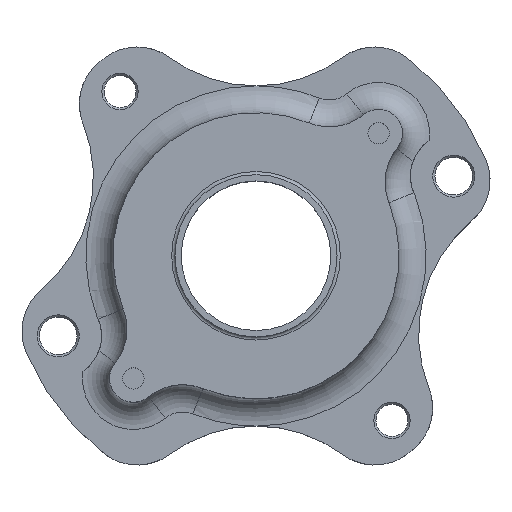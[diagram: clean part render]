
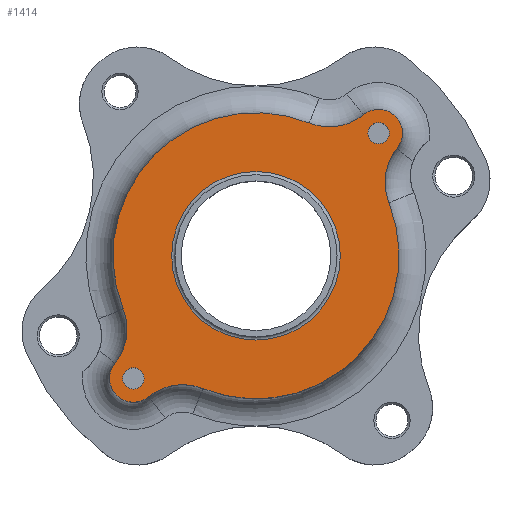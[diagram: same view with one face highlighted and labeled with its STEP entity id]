
A CAD part, top view. The second image highlights one B-rep face of the part: STEP entity #1414.
In plain terms, the highlighted planar face has unit normal (0, 0, 1).
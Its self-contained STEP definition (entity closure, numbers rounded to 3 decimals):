
#249=ORIENTED_EDGE('',*,*,#507,.F.);
#250=ORIENTED_EDGE('',*,*,#508,.T.);
#251=ORIENTED_EDGE('',*,*,#509,.T.);
#252=ORIENTED_EDGE('',*,*,#510,.T.);
#253=ORIENTED_EDGE('',*,*,#511,.T.);
#254=ORIENTED_EDGE('',*,*,#512,.T.);
#255=ORIENTED_EDGE('',*,*,#513,.T.);
#256=ORIENTED_EDGE('',*,*,#514,.T.);
#257=ORIENTED_EDGE('',*,*,#515,.T.);
#258=ORIENTED_EDGE('',*,*,#516,.T.);
#259=ORIENTED_EDGE('',*,*,#517,.T.);
#507=EDGE_CURVE('',#632,#632,#725,.T.);
#508=EDGE_CURVE('',#633,#633,#726,.T.);
#509=EDGE_CURVE('',#634,#634,#727,.T.);
#510=EDGE_CURVE('',#635,#636,#728,.T.);
#511=EDGE_CURVE('',#636,#637,#729,.T.);
#512=EDGE_CURVE('',#637,#638,#730,.T.);
#513=EDGE_CURVE('',#638,#639,#731,.T.);
#514=EDGE_CURVE('',#639,#640,#732,.T.);
#515=EDGE_CURVE('',#640,#641,#733,.T.);
#516=EDGE_CURVE('',#641,#642,#734,.T.);
#517=EDGE_CURVE('',#642,#635,#735,.T.);
#632=VERTEX_POINT('',#2161);
#633=VERTEX_POINT('',#2163);
#634=VERTEX_POINT('',#2165);
#635=VERTEX_POINT('',#2167);
#636=VERTEX_POINT('',#2168);
#637=VERTEX_POINT('',#2170);
#638=VERTEX_POINT('',#2172);
#639=VERTEX_POINT('',#2174);
#640=VERTEX_POINT('',#2176);
#641=VERTEX_POINT('',#2178);
#642=VERTEX_POINT('',#2180);
#725=CIRCLE('',#1538,19.755);
#726=CIRCLE('',#1539,2.488);
#727=CIRCLE('',#1540,2.488);
#728=CIRCLE('',#1541,12.7);
#729=CIRCLE('',#1542,5.588);
#730=CIRCLE('',#1543,12.7);
#731=CIRCLE('',#1544,33.528);
#732=CIRCLE('',#1545,12.7);
#733=CIRCLE('',#1546,5.588);
#734=CIRCLE('',#1547,12.7);
#735=CIRCLE('',#1548,33.528);
#795=EDGE_LOOP('',(#249));
#796=EDGE_LOOP('',(#250));
#797=EDGE_LOOP('',(#251));
#798=EDGE_LOOP('',(#252,#253,#254,#255,#256,#257,#258,#259));
#883=FACE_BOUND('',#795,.T.);
#884=FACE_BOUND('',#796,.T.);
#885=FACE_BOUND('',#797,.T.);
#886=FACE_BOUND('',#798,.T.);
#956=PLANE('',#1537);
#1414=ADVANCED_FACE('',(#883,#884,#885,#886),#956,.F.);
#1537=AXIS2_PLACEMENT_3D('',#2159,#1803,#1804);
#1538=AXIS2_PLACEMENT_3D('',#2160,#1805,#1806);
#1539=AXIS2_PLACEMENT_3D('',#2162,#1807,#1808);
#1540=AXIS2_PLACEMENT_3D('',#2164,#1809,#1810);
#1541=AXIS2_PLACEMENT_3D('',#2166,#1811,#1812);
#1542=AXIS2_PLACEMENT_3D('',#2169,#1813,#1814);
#1543=AXIS2_PLACEMENT_3D('',#2171,#1815,#1816);
#1544=AXIS2_PLACEMENT_3D('',#2173,#1817,#1818);
#1545=AXIS2_PLACEMENT_3D('',#2175,#1819,#1820);
#1546=AXIS2_PLACEMENT_3D('',#2177,#1821,#1822);
#1547=AXIS2_PLACEMENT_3D('',#2179,#1823,#1824);
#1548=AXIS2_PLACEMENT_3D('',#2181,#1825,#1826);
#1803=DIRECTION('',(0.,0.,-1.));
#1804=DIRECTION('',(-1.,0.,0.));
#1805=DIRECTION('',(0.,0.,1.));
#1806=DIRECTION('',(1.,0.,0.));
#1807=DIRECTION('',(0.,0.,-1.));
#1808=DIRECTION('',(0.,-1.,0.));
#1809=DIRECTION('',(0.,0.,-1.));
#1810=DIRECTION('',(0.,-1.,0.));
#1811=DIRECTION('',(0.,0.,-1.));
#1812=DIRECTION('',(0.,1.,0.));
#1813=DIRECTION('',(0.,0.,1.));
#1814=DIRECTION('',(0.,1.,0.));
#1815=DIRECTION('',(0.,0.,-1.));
#1816=DIRECTION('',(0.,-1.,0.));
#1817=DIRECTION('',(0.,0.,1.));
#1818=DIRECTION('',(0.,1.,0.));
#1819=DIRECTION('',(0.,0.,-1.));
#1820=DIRECTION('',(0.,1.,0.));
#1821=DIRECTION('',(0.,0.,1.));
#1822=DIRECTION('',(0.,-1.,0.));
#1823=DIRECTION('',(0.,0.,-1.));
#1824=DIRECTION('',(0.,1.,0.));
#1825=DIRECTION('',(0.,0.,1.));
#1826=DIRECTION('',(0.,-1.,0.));
#2159=CARTESIAN_POINT('',(46.355,0.,39.116));
#2160=CARTESIAN_POINT('',(0.,0.,39.116));
#2161=CARTESIAN_POINT('',(19.755,0.,39.116));
#2162=CARTESIAN_POINT('',(28.737,28.737,39.116));
#2163=CARTESIAN_POINT('',(28.737,26.249,39.116));
#2164=CARTESIAN_POINT('',(-28.737,-28.737,39.116));
#2165=CARTESIAN_POINT('',(-28.737,-31.225,39.116));
#2166=CARTESIAN_POINT('',(-42.915,-17.185,39.116));
#2167=CARTESIAN_POINT('',(-31.125,-12.464,39.116));
#2168=CARTESIAN_POINT('',(-33.069,-25.207,39.116));
#2169=CARTESIAN_POINT('',(-28.737,-28.737,39.116));
#2170=CARTESIAN_POINT('',(-25.207,-33.069,39.116));
#2171=CARTESIAN_POINT('',(-17.185,-42.915,39.116));
#2172=CARTESIAN_POINT('',(-12.464,-31.125,39.116));
#2173=CARTESIAN_POINT('',(0.,0.,39.116));
#2174=CARTESIAN_POINT('',(31.125,12.464,39.116));
#2175=CARTESIAN_POINT('',(42.915,17.185,39.116));
#2176=CARTESIAN_POINT('',(33.069,25.207,39.116));
#2177=CARTESIAN_POINT('',(28.737,28.737,39.116));
#2178=CARTESIAN_POINT('',(25.207,33.069,39.116));
#2179=CARTESIAN_POINT('',(17.185,42.915,39.116));
#2180=CARTESIAN_POINT('',(12.464,31.125,39.116));
#2181=CARTESIAN_POINT('',(0.,0.,39.116));
